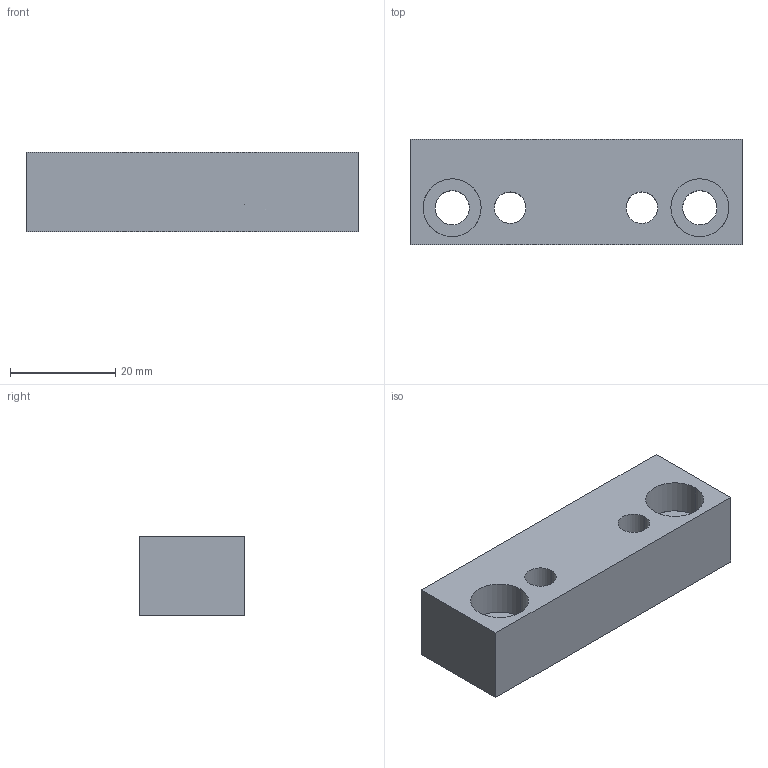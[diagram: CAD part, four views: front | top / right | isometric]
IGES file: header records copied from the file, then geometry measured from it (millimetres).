
Start section: START RECORD GO HERE.
Global section: file name: G40515063.igs; native system: DASSAULT SYSTEMES CATIA V5 R20 - www.3ds.com; preprocessor: CATIA Version 5 Release 20 ; author: r.borello; organization: CFTORINO; date: 20190624.150123; units: millimetre
Bounding box: 63 x 20 x 15 mm (x, y, z)
Surface area: 7313.7 mm2 (no closed solid volume)
Topology: 0 solids, 0 shells, 156 faces, 672 edges, 616 vertices
Faces by surface type: revolution 132, plane 24
